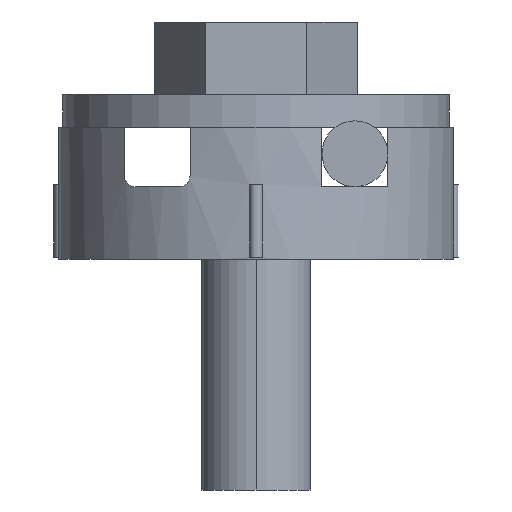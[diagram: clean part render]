
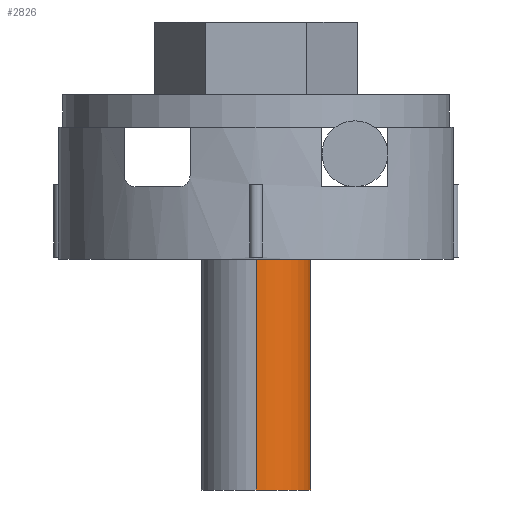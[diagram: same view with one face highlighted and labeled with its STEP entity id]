
A CAD part, front view. The second image highlights one B-rep face of the part: STEP entity #2826.
In plain terms, the highlighted cylindrical face has radius 2.5 mm (diameter 5 mm), a partial arc.
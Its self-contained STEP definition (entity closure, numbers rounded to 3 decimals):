
#2800 = ORIENTED_EDGE ( 'NONE', *, *, #2801, .T. ) ;
#2801 = EDGE_CURVE ( 'NONE', #2829, #2802, #7420, .T. ) ;
#2802 = VERTEX_POINT ( 'NONE', #7479 ) ;
#2803 = ORIENTED_EDGE ( 'NONE', *, *, #2804, .T. ) ;
#2804 = EDGE_CURVE ( 'NONE', #2802, #2805, #7478, .T. ) ;
#2805 = VERTEX_POINT ( 'NONE', #7473 ) ;
#2806 = ORIENTED_EDGE ( 'NONE', *, *, #2807, .F. ) ;
#2807 = EDGE_CURVE ( 'NONE', #2830, #2805, #7472, .T. ) ;
#2823 = EDGE_LOOP ( 'NONE', ( #2827, #2800, #2803, #2806 ) ) ;
#2826 = ADVANCED_FACE ( 'NONE', ( #7505 ), #7504, .T. ) ;
#2827 = ORIENTED_EDGE ( 'NONE', *, *, #2828, .F. ) ;
#2828 = EDGE_CURVE ( 'NONE', #2829, #2830, #7499, .T. ) ;
#2829 = VERTEX_POINT ( 'NONE', #7494 ) ;
#2830 = VERTEX_POINT ( 'NONE', #7493 ) ;
#7416 = DIRECTION ( 'NONE',  ( 0., 1., 0. ) ) ;
#7417 = VECTOR ( 'NONE', #7416, 1000. ) ;
#7418 = CARTESIAN_POINT ( 'NONE',  ( 0., -18., -2.5 ) ) ;
#7420 = LINE ( 'NONE', #7418, #7417 ) ;
#7469 = DIRECTION ( 'NONE',  ( 0., 1., 0. ) ) ;
#7470 = VECTOR ( 'NONE', #7469, 1000. ) ;
#7471 = CARTESIAN_POINT ( 'NONE',  ( 0., -18., 2.5 ) ) ;
#7472 = LINE ( 'NONE', #7471, #7470 ) ;
#7473 = CARTESIAN_POINT ( 'NONE',  ( 0., 0., 2.5 ) ) ;
#7474 = DIRECTION ( 'NONE',  ( 0., 0., 1. ) ) ;
#7475 = DIRECTION ( 'NONE',  ( 0., -1., 0. ) ) ;
#7476 = CARTESIAN_POINT ( 'NONE',  ( 0., 0., 0. ) ) ;
#7477 = AXIS2_PLACEMENT_3D ( 'NONE', #7476, #7475, #7474 ) ;
#7478 = CIRCLE ( 'NONE', #7477, 2.5 ) ;
#7479 = CARTESIAN_POINT ( 'NONE',  ( 0., 0., -2.5 ) ) ;
#7493 = CARTESIAN_POINT ( 'NONE',  ( 0., -18., 2.5 ) ) ;
#7494 = CARTESIAN_POINT ( 'NONE',  ( 0., -18., -2.5 ) ) ;
#7495 = DIRECTION ( 'NONE',  ( 0., 0., -1. ) ) ;
#7496 = DIRECTION ( 'NONE',  ( 0., -1., 0. ) ) ;
#7497 = CARTESIAN_POINT ( 'NONE',  ( 0., -18., 0. ) ) ;
#7498 = AXIS2_PLACEMENT_3D ( 'NONE', #7497, #7496, #7495 ) ;
#7499 = CIRCLE ( 'NONE', #7498, 2.5 ) ;
#7500 = DIRECTION ( 'NONE',  ( 0., 0., 1. ) ) ;
#7501 = DIRECTION ( 'NONE',  ( 0., 1., 0. ) ) ;
#7502 = AXIS2_PLACEMENT_3D ( 'NONE', #7503, #7501, #7500 ) ;
#7503 = CARTESIAN_POINT ( 'NONE',  ( 0., -18., 0. ) ) ;
#7504 = CYLINDRICAL_SURFACE ( 'NONE', #7502, 2.5 ) ;
#7505 = FACE_OUTER_BOUND ( 'NONE', #2823, .T. ) ;
